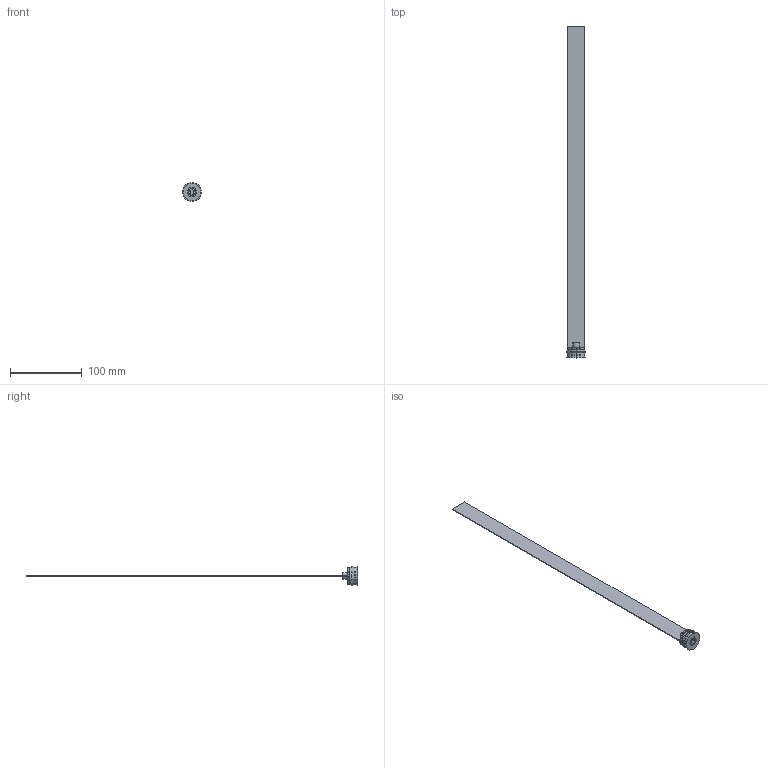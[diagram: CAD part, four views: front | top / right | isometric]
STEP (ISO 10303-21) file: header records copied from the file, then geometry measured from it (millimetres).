
FILE_DESCRIPTION (( 'STEP AP203' ), '1' );
FILE_NAME ('RL-25Fx450-24,5.STEP', '2015-12-04T07:29:13', ( 'Balzi' ), ( '' ), 'SwSTEP 2.0', 'SolidWorks 2015', '' );
FILE_SCHEMA (( 'CONFIG_CONTROL_DESIGN' ));
Length unit declared in the file: millimetre
Products named in the file (1): RL-25Fx450-24,5
Bounding box: 26.5 x 464 x 26.5 mm (x, y, z)
Volume: 17979.3 mm3; surface area: 25909.7 mm2
Topology: 1 solids, 1 shells, 75 faces, 177 edges, 109 vertices
Faces by surface type: plane 31, cone 19, cylinder 17, torus 8
Entity records: 2245 total; most frequent: CARTESIAN_POINT 412, DIRECTION 386, ORIENTED_EDGE 354, EDGE_CURVE 177, AXIS2_PLACEMENT_3D 147, VERTEX_POINT 109, VECTOR 92, LINE 92
